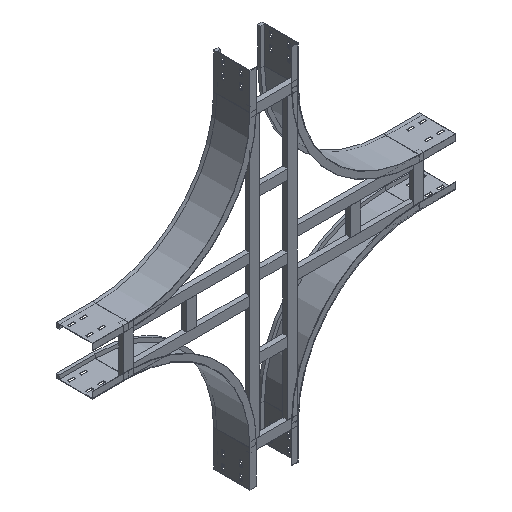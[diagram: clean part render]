
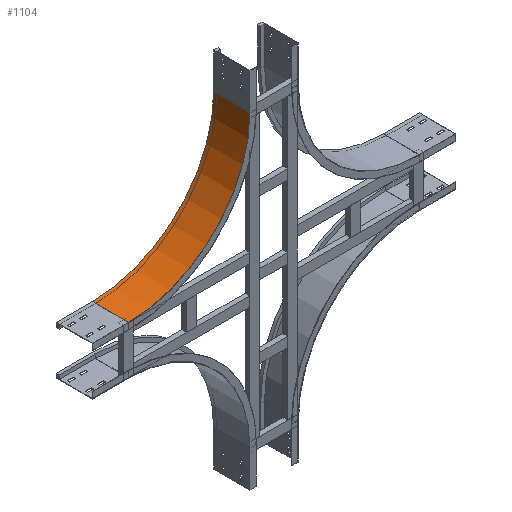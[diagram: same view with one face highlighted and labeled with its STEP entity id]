
A CAD part, isometric view. The second image highlights one B-rep face of the part: STEP entity #1104.
In plain terms, the highlighted cylindrical face has radius 500 mm (diameter 1000 mm), a partial arc.
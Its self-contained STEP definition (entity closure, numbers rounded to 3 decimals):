
#28 = EDGE_CURVE ( 'NONE', #330, #1805, #2468, .T. ) ;
#60 = CIRCLE ( 'NONE', #1046, 500. ) ;
#76 = CIRCLE ( 'NONE', #1247, 500. ) ;
#150 = CARTESIAN_POINT ( 'NONE',  ( 500., 0., -150. ) ) ;
#330 = VERTEX_POINT ( 'NONE', #854 ) ;
#370 = CYLINDRICAL_SURFACE ( 'NONE', #1350, 500. ) ;
#507 = EDGE_CURVE ( 'NONE', #2371, #1805, #60, .T. ) ;
#539 = DIRECTION ( 'NONE',  ( 0., -1., 0. ) ) ;
#832 = DIRECTION ( 'NONE',  ( 0., -1., 0. ) ) ;
#854 = CARTESIAN_POINT ( 'NONE',  ( 500., 0., -650. ) ) ;
#1042 = EDGE_CURVE ( 'NONE', #2748, #330, #76, .T. ) ;
#1046 = AXIS2_PLACEMENT_3D ( 'NONE', #2786, #539, #2555 ) ;
#1062 = DIRECTION ( 'NONE',  ( 0., -1., 0. ) ) ;
#1104 = ADVANCED_FACE ( 'NONE', ( #2406 ), #370, .F. ) ;
#1123 = VECTOR ( 'NONE', #2182, 1000. ) ;
#1164 = LINE ( 'NONE', #2054, #2753 ) ;
#1247 = AXIS2_PLACEMENT_3D ( 'NONE', #2436, #832, #2883 ) ;
#1288 = ORIENTED_EDGE ( 'NONE', *, *, #507, .F. ) ;
#1350 = AXIS2_PLACEMENT_3D ( 'NONE', #150, #1062, #2869 ) ;
#1390 = DIRECTION ( 'NONE',  ( 0., 1., 0. ) ) ;
#1440 = CARTESIAN_POINT ( 'NONE',  ( 0., 150., -150. ) ) ;
#1526 = ORIENTED_EDGE ( 'NONE', *, *, #28, .T. ) ;
#1677 = ORIENTED_EDGE ( 'NONE', *, *, #1042, .T. ) ;
#1791 = ORIENTED_EDGE ( 'NONE', *, *, #2623, .F. ) ;
#1805 = VERTEX_POINT ( 'NONE', #1920 ) ;
#1846 = EDGE_LOOP ( 'NONE', ( #1288, #1791, #1677, #1526 ) ) ;
#1920 = CARTESIAN_POINT ( 'NONE',  ( 500., 150., -650. ) ) ;
#2010 = CARTESIAN_POINT ( 'NONE',  ( 500., 0., -650. ) ) ;
#2054 = CARTESIAN_POINT ( 'NONE',  ( 0., 0., -150. ) ) ;
#2182 = DIRECTION ( 'NONE',  ( 0., 1., 0. ) ) ;
#2371 = VERTEX_POINT ( 'NONE', #1440 ) ;
#2406 = FACE_OUTER_BOUND ( 'NONE', #1846, .T. ) ;
#2436 = CARTESIAN_POINT ( 'NONE',  ( 500., 0., -150. ) ) ;
#2468 = LINE ( 'NONE', #2010, #1123 ) ;
#2555 = DIRECTION ( 'NONE',  ( -1., 0., 0. ) ) ;
#2623 = EDGE_CURVE ( 'NONE', #2748, #2371, #1164, .T. ) ;
#2739 = CARTESIAN_POINT ( 'NONE',  ( 0., 0., -150. ) ) ;
#2748 = VERTEX_POINT ( 'NONE', #2739 ) ;
#2753 = VECTOR ( 'NONE', #1390, 1000. ) ;
#2786 = CARTESIAN_POINT ( 'NONE',  ( 500., 150., -150. ) ) ;
#2869 = DIRECTION ( 'NONE',  ( 0., 0., -1. ) ) ;
#2883 = DIRECTION ( 'NONE',  ( -1., 0., 0. ) ) ;
